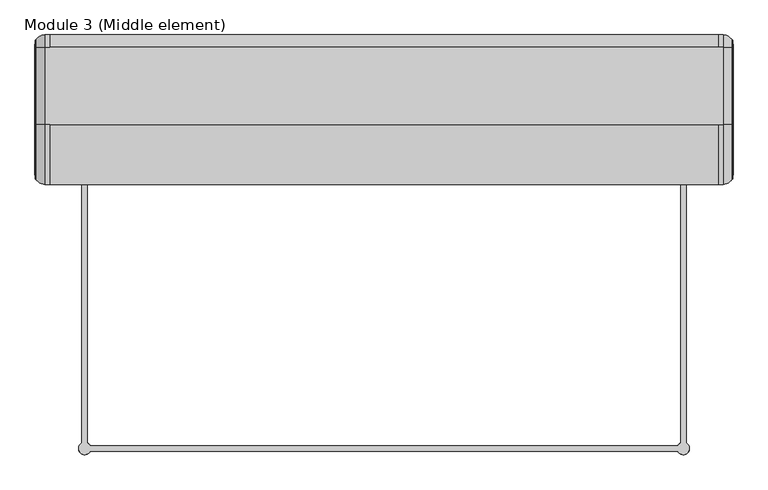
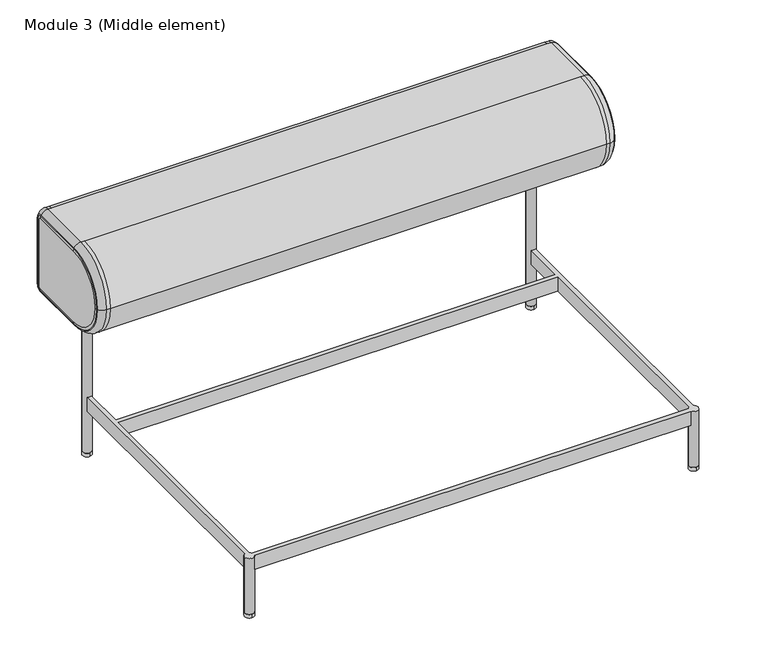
"""IFC4 building model written with IfcOpenShell, lengths in millimetres: furniture geometry, Module 3 (Middle element) : 1400х930х710мм."""

from ifc_helpers import new_model, si_unit, point, frame, frame_2d, origin, origin_with_axes, place, context, project, spatial, circle_curve, ellipse_curve, trimmed, segment, composite_curve, outline, extrude, source, transform, mapped, element, save
from ifc_brep_helpers import plane_surface, cylinder_surface, revolved_surface, advanced_brep


def module_3_middle_element_c7384a8f(model_context):
    return source(origin(), model_context, "Body", "SolidModel", [
        extrude(outline(composite_curve([segment(trimmed(circle_curve(frame_2d((1300.0, -70.0)), 12.5), [point((1300.0, -82.5))], [point((1300.0, -57.5))], False, "CARTESIAN"), True, "CONTINUOUS"), segment(trimmed(circle_curve(frame_2d((1300.0, -70.0)), 12.5), [point((1300.0, -57.5))], [point((1300.0, -82.5))], False, "CARTESIAN"), True, "CONTINUOUS")], self_intersect=False)), origin_with_axes(), (0.0, 0.0, 1.0), 10.0),
        extrude(outline(composite_curve([segment(trimmed(circle_curve(frame_2d((1300.0, -830.0)), 12.5), [point((1300.0, -842.5))], [point((1300.0, -817.5))], False, "CARTESIAN"), True, "CONTINUOUS"), segment(trimmed(circle_curve(frame_2d((1300.0, -830.0)), 12.5), [point((1300.0, -817.5))], [point((1300.0, -842.5))], False, "CARTESIAN"), True, "CONTINUOUS")], self_intersect=False)), origin_with_axes(), (0.0, 0.0, 1.0), 10.0),
        extrude(outline(composite_curve([segment(trimmed(circle_curve(frame_2d((100.0, -70.0)), 12.5), [point((100.0, -82.5))], [point((100.0, -57.5))], False, "CARTESIAN"), True, "CONTINUOUS"), segment(trimmed(circle_curve(frame_2d((100.0, -70.0)), 12.5), [point((100.0, -57.5))], [point((100.0, -82.5))], False, "CARTESIAN"), True, "CONTINUOUS")], self_intersect=False)), origin_with_axes(), (0.0, 0.0, 1.0), 10.0),
        extrude(outline(composite_curve([segment(trimmed(circle_curve(frame_2d((100.0, -830.0)), 12.5), [point((100.0, -842.5))], [point((100.0, -817.5))], False, "CARTESIAN"), True, "CONTINUOUS"), segment(trimmed(circle_curve(frame_2d((100.0, -830.0)), 12.5), [point((100.0, -817.5))], [point((100.0, -842.5))], False, "CARTESIAN"), True, "CONTINUOUS")], self_intersect=False)), origin_with_axes(), (0.0, 0.0, 1.0), 10.0),
        advanced_brep(
        [(106.0281998, -206.0281998, 130.0), (106.0281998, -206.0281998, 170.0), (106.0281998, -819.0496207, 170.0), (106.0281998, -819.0496207, 130.0), (94.0281998, -819.0187614, 130.0), (94.0281998, -819.0187614, 170.0), (94.0281998, -80.9812386, 170.0), (94.0281998, -80.9812386, 130.0), (110.9503793, -823.9718002, 170.0), (1289.0496207, -823.9718002, 170.0), (1289.0496207, -823.9718002, 130.0), (110.9503793, -823.9718002, 130.0), (110.9812386, -835.9718002, 130.0), (1289.0187614, -835.9718002, 130.0), (1289.0187614, -835.9718002, 170.0), (110.9812386, -835.9718002, 170.0), (1293.9718002, -206.0281998, 170.0), (1293.9718002, -206.0281998, 130.0), (1293.9718002, -819.0496207, 130.0), (1293.9718002, -819.0496207, 170.0), (1305.9718002, -819.0187614, 170.0), (1305.9718002, -819.0187614, 130.0), (1305.9718002, -80.9812386, 130.0), (1305.9718002, -80.9812386, 170.0), (112.5, -830.0, 130.0), (1287.5, -830.0, 130.0), (106.0281998, -80.9503793, 130.0), (106.0281998, -194.0281998, 130.0), (1293.9718002, -194.0281998, 130.0), (1293.9718002, -80.9503793, 130.0), (106.0281998, -194.0281998, 170.0), (1293.9718002, -194.0281998, 170.0), (87.5, -830.0, 170.0), (1312.5, -830.0, 170.0), (1293.9718002, -80.9503793, 170.0), (106.0281998, -80.9503793, 170.0), (87.5, -830.0, 10.0), (112.5, -830.0, 10.0), (1287.5, -830.0, 10.0), (1312.5, -830.0, 10.0), (87.5, -70.0, 460.0), (112.5, -70.0, 460.0), (1287.5, -70.0, 460.0), (1312.5, -70.0, 460.0), (87.5, -70.0, 10.0), (112.5, -70.0, 10.0), (1287.5, -70.0, 10.0), (1312.5, -70.0, 10.0)],
        [
            (0, 1),
            (1, 2),
            (2, 3),
            (3, 0),
            (4, 5),
            (5, 6),
            (6, 7),
            (7, 4),
            (8, 9),
            (9, 10),
            (10, 11),
            (11, 8),
            (12, 13),
            (13, 14),
            (14, 15),
            (15, 12),
            (16, 17),
            (17, 18),
            (18, 19),
            (19, 16),
            (20, 21),
            (21, 22),
            (22, 23),
            (23, 20),
            (0, 17),
            (16, 1),
            (12, 24, circle_curve(frame((100.0, -830.0, 130.0), z_axis=(0.0, 0.0, 1.0), x_axis=(1.0, 0.0, 0.0)), 12.5)),
            (24, 11, circle_curve(frame((100.0, -830.0, 130.0), z_axis=(0.0, 0.0, 1.0), x_axis=(1.0, 0.0, 0.0)), 12.5)),
            (10, 25, circle_curve(frame((1300.0, -830.0, 130.0), z_axis=(0.0, 0.0, 1.0), x_axis=(1.0, 0.0, 0.0)), 12.5)),
            (25, 13, circle_curve(frame((1300.0, -830.0, 130.0), z_axis=(0.0, 0.0, 1.0), x_axis=(1.0, 0.0, 0.0)), 12.5)),
            (3, 4, circle_curve(frame((100.0, -830.0, 130.0), z_axis=(0.0, 0.0, 1.0), x_axis=(1.0, 0.0, 0.0)), 12.5)),
            (7, 26, circle_curve(frame((100.0, -70.0, 130.0), z_axis=(0.0, 0.0, 1.0), x_axis=(1.0, 0.0, 0.0)), 12.5)),
            (26, 27),
            (27, 28),
            (28, 29),
            (29, 22, circle_curve(frame((1300.0, -70.0, 130.0), z_axis=(0.0, 0.0, 1.0), x_axis=(1.0, 0.0, 0.0)), 12.5)),
            (21, 18, circle_curve(frame((1300.0, -830.0, 130.0), z_axis=(0.0, 0.0, 1.0), x_axis=(1.0, 0.0, 0.0)), 12.5)),
            (27, 30),
            (30, 31),
            (31, 28),
            (32, 15, circle_curve(frame((100.0, -830.0, 170.0), z_axis=(0.0, 0.0, 1.0), x_axis=(1.0, 0.0, 0.0)), 12.5)),
            (14, 33, circle_curve(frame((1300.0, -830.0, 170.0), z_axis=(0.0, 0.0, 1.0), x_axis=(1.0, 0.0, 0.0)), 12.5)),
            (33, 20, circle_curve(frame((1300.0, -830.0, 170.0), z_axis=(0.0, 0.0, 1.0), x_axis=(1.0, 0.0, 0.0)), 12.5)),
            (23, 34, circle_curve(frame((1300.0, -70.0, 170.0), z_axis=(0.0, 0.0, -1.0), x_axis=(1.0, 0.0, 0.0)), 12.5)),
            (34, 31),
            (30, 35),
            (35, 6, circle_curve(frame((100.0, -70.0, 170.0), z_axis=(0.0, 0.0, -1.0), x_axis=(1.0, 0.0, 0.0)), 12.5)),
            (5, 32, circle_curve(frame((100.0, -830.0, 170.0), z_axis=(0.0, 0.0, 1.0), x_axis=(1.0, 0.0, 0.0)), 12.5)),
            (19, 9, circle_curve(frame((1300.0, -830.0, 170.0), z_axis=(0.0, 0.0, 1.0), x_axis=(1.0, 0.0, 0.0)), 12.5)),
            (8, 2, circle_curve(frame((100.0, -830.0, 170.0), z_axis=(0.0, 0.0, 1.0), x_axis=(1.0, 0.0, 0.0)), 12.5)),
            (36, 37, circle_curve(frame((100.0, -830.0, 10.0), z_axis=(0.0, 0.0, -1.0), x_axis=(1.0, 0.0, 0.0)), 12.5)),
            (37, 36, circle_curve(frame((100.0, -830.0, 10.0), z_axis=(0.0, 0.0, -1.0), x_axis=(1.0, 0.0, 0.0)), 12.5)),
            (38, 39, circle_curve(frame((1300.0, -830.0, 10.0), z_axis=(0.0, 0.0, -1.0), x_axis=(1.0, 0.0, 0.0)), 12.5)),
            (39, 38, circle_curve(frame((1300.0, -830.0, 10.0), z_axis=(0.0, 0.0, -1.0), x_axis=(1.0, 0.0, 0.0)), 12.5)),
            (37, 24),
            (32, 36),
            (39, 33),
            (25, 38),
            (40, 41, circle_curve(frame((100.0, -70.0, 460.0), z_axis=(0.0, 0.0, 1.0), x_axis=(1.0, 0.0, 0.0)), 12.5)),
            (41, 40, circle_curve(frame((100.0, -70.0, 460.0), z_axis=(0.0, 0.0, 1.0), x_axis=(1.0, 0.0, 0.0)), 12.5)),
            (42, 43, circle_curve(frame((1300.0, -70.0, 460.0), z_axis=(0.0, 0.0, 1.0), x_axis=(1.0, 0.0, 0.0)), 12.5)),
            (43, 42, circle_curve(frame((1300.0, -70.0, 460.0), z_axis=(0.0, 0.0, 1.0), x_axis=(1.0, 0.0, 0.0)), 12.5)),
            (44, 45, circle_curve(frame((100.0, -70.0, 10.0), z_axis=(0.0, 0.0, -1.0), x_axis=(1.0, 0.0, 0.0)), 12.5)),
            (45, 44, circle_curve(frame((100.0, -70.0, 10.0), z_axis=(0.0, 0.0, -1.0), x_axis=(1.0, 0.0, 0.0)), 12.5)),
            (46, 47, circle_curve(frame((1300.0, -70.0, 10.0), z_axis=(0.0, 0.0, -1.0), x_axis=(1.0, 0.0, 0.0)), 12.5)),
            (47, 46, circle_curve(frame((1300.0, -70.0, 10.0), z_axis=(0.0, 0.0, -1.0), x_axis=(1.0, 0.0, 0.0)), 12.5)),
            (40, 44),
            (45, 41),
            (35, 26),
            (34, 29),
            (42, 46),
            (47, 43),
        ],
        [
            plane_surface(frame((106.0281998, -206.0281998, 170.0), z_axis=(1.0, 0.0, 0.0), x_axis=(0.0, -1.0, 0.0))),
            plane_surface(frame((94.0281998, -194.0281998, 130.0), z_axis=(-1.0, 0.0, 0.0), x_axis=(0.0, -1.0, 0.0))),
            plane_surface(frame((106.0281998, -823.9718002, 170.0), z_axis=(0.0, 1.0, 0.0), x_axis=(1.0, 0.0, 0.0))),
            plane_surface(frame((94.0281998, -835.9718002, 130.0), z_axis=(0.0, -1.0, 0.0), x_axis=(1.0, 0.0, 0.0))),
            plane_surface(frame((1293.9718002, -823.9718002, 170.0), z_axis=(-1.0, 0.0, 0.0), x_axis=(0.0, 1.0, 0.0))),
            plane_surface(frame((1305.9718002, -835.9718002, 130.0), z_axis=(1.0, 0.0, 0.0), x_axis=(0.0, 1.0, 0.0))),
            plane_surface(frame((1293.9718002, -206.0281998, 170.0), z_axis=(0.0, -1.0, 0.0), x_axis=(-1.0, 0.0, 0.0))),
            plane_surface(frame((1293.9718002, -206.0281998, 130.0), z_axis=(0.0, 0.0, -1.0), x_axis=(-1.0, 0.0, 0.0))),
            plane_surface(frame((1305.9718002, -194.0281998, 130.0), z_axis=(0.0, 1.0, 0.0), x_axis=(-1.0, 0.0, 0.0))),
            plane_surface(frame((1305.9718002, -194.0281998, 170.0), z_axis=(0.0, 0.0, 1.0), x_axis=(-1.0, 0.0, 0.0))),
            plane_surface(frame((112.5, -830.0, 10.0), z_axis=(0.0, 0.0, -1.0), x_axis=(0.0, -1.0, 0.0))),
            cylinder_surface(frame((100.0, -830.0, 10.0), z_axis=(0.0, 0.0, 1.0), x_axis=(1.0, 0.0, 0.0)), 12.5),
            cylinder_surface(frame((1300.0, -830.0, 0.0), z_axis=(0.0, 0.0, 1.0), x_axis=(1.0, 0.0, 0.0)), 12.5),
            plane_surface(frame((112.5, -70.0, 460.0), z_axis=(0.0, 0.0, 1.0), x_axis=(0.0, 1.0, 0.0))),
            plane_surface(frame((112.5, -70.0, 10.0), z_axis=(0.0, 0.0, -1.0), x_axis=(0.0, -1.0, 0.0))),
            cylinder_surface(frame((100.0, -70.0, 10.0), z_axis=(0.0, 0.0, 1.0), x_axis=(1.0, 0.0, 0.0)), 12.5),
            plane_surface(frame((106.0281998, -70.0, 170.0), z_axis=(1.0, 0.0, 0.0), x_axis=(0.0, -1.0, 0.0))),
            plane_surface(frame((1293.9718002, -70.0, 130.0), z_axis=(-1.0, 0.0, 0.0), x_axis=(0.0, -1.0, 0.0))),
            cylinder_surface(frame((1300.0, -70.0, 0.0), z_axis=(0.0, 0.0, 1.0), x_axis=(1.0, 0.0, 0.0)), 12.5),
        ],
        [
            (0, [[1, 2, 3, 4]]),
            (1, [[5, 6, 7, 8]]),
            (2, [[9, 10, 11, 12]]),
            (3, [[13, 14, 15, 16]]),
            (4, [[17, 18, 19, 20]]),
            (5, [[21, 22, 23, 24]]),
            (6, [[-1, 25, -17, 26]]),
            (7, [[-13, 27, 28, -11, 29, 30]]),
            (7, [[-25, -4, 31, -8, 32, 33, 34, 35, 36, -22, 37, -18]]),
            (8, [[38, 39, 40, -34]]),
            (9, [[41, -15, 42, 43, -24, 44, 45, -39, 46, 47, -6, 48], [-26, -20, 49, -9, 50, -2]]),
            (10, [[51, 52]]),
            (10, [[53, 54]]),
            (11, [[-52, 55, -27, -16, -41, 56]]),
            (11, [[-51, -56, -48, -5, -31, -3, -50, -12, -28, -55]]),
            (12, [[-54, 57, -42, -14, -30, 58]]),
            (12, [[-53, -58, -29, -10, -49, -19, -37, -21, -43, -57]]),
            (13, [[59, 60]]),
            (13, [[61, 62]]),
            (14, [[63, 64]]),
            (14, [[65, 66]]),
            (15, [[-59, 67, -64, 68], [69, -32, -7, -47]]),
            (15, [[-60, -68, -63, -67]]),
            (16, [[-46, -38, -33, -69]]),
            (17, [[-35, -40, -45, 70]]),
            (18, [[-61, 71, -66, 72], [-23, -36, -70, -44]]),
            (18, [[-62, -72, -65, -71]]),
        ],
    ),
        advanced_brep(
        [(0.0, -280.0, 580.0), (0.0, -180.0, 680.0), (0.0, -25.0, 680.0), (0.0, -20.0, 675.0), (0.0, -20.0, 485.0), (0.0, -25.0, 480.0), (0.0, -180.0, 480.0), (20.0, -300.0, 580.0), (20.0, -180.0, 700.0), (2.1372821, -180.0, 688.9957385), (2.1372821, -288.9957385, 580.0), (30.0, -300.0, 580.0), (30.0, -180.0, 700.0), (2.1372821, -180.0, 471.0042615), (20.0, -180.0, 460.0), (30.0, -180.0, 460.0), (2.1372821, -25.0, 471.0042615), (20.0, -25.0, 460.0), (30.0, -25.0, 460.0), (1370.0, -25.0, 460.0), (1380.0, -25.0, 460.0), (1380.0, -180.0, 460.0), (1370.0, -180.0, 460.0), (2.1372821, -11.0042615, 485.0), (20.0, 0.0, 485.0), (30.0, 0.0, 485.0), (2.1372821, -11.0042615, 675.0), (20.0, 0.0, 675.0), (30.0, 0.0, 675.0), (1370.0, 0.0, 675.0), (1380.0, 0.0, 675.0), (1380.0, 0.0, 485.0), (1370.0, 0.0, 485.0), (2.1372821, -25.0, 688.9957385), (20.0, -25.0, 700.0), (30.0, -25.0, 700.0), (1370.0, -180.0, 700.0), (1380.0, -180.0, 700.0), (1380.0, -25.0, 700.0), (1370.0, -25.0, 700.0), (1370.0, -300.0, 580.0), (1400.0, -180.0, 680.0), (1400.0, -280.0, 580.0), (1400.0, -180.0, 480.0), (1400.0, -25.0, 480.0), (1400.0, -20.0, 485.0), (1400.0, -20.0, 675.0), (1400.0, -25.0, 680.0), (1398.319335, -180.0, 688.0250834), (1398.319335, -288.0250834, 580.0), (1380.0, -300.0, 580.0), (1398.319335, -180.0, 471.9749166), (1398.319335, -25.0, 471.9749166), (1398.319335, -11.9749166, 485.0), (1398.319335, -11.9749166, 675.0), (1398.319335, -25.0, 688.0250834), (1397.9066419, -288.9079837, 580.0), (1397.9066419, -180.0, 688.9079837), (1397.9066419, -180.0, 471.0920163), (1397.9066419, -25.0, 471.0920163), (1397.9066419, -11.0920163, 485.0), (1397.9066419, -11.0920163, 675.0), (1397.9066419, -25.0, 688.9079837), (1.7163728, -288.1061073, 580.0), (1.7163728, -180.0, 688.1061073), (1.7163728, -180.0, 471.8938927), (1.7163728, -25.0, 471.8938927), (1.7163728, -11.8938927, 485.0), (1.7163728, -11.8938927, 675.0), (1.7163728, -25.0, 688.1061073)],
        [
            (0, 1, circle_curve(frame((0.0, -180.0, 580.0), z_axis=(-1.0, 0.0, 0.0), x_axis=(0.0, 0.0, 1.0)), 100.0)),
            (1, 2),
            (2, 3, circle_curve(frame((0.0, -25.0, 675.0), z_axis=(-1.0, 0.0, 0.0), x_axis=(0.0, 1.0, 0.0)), 5.0)),
            (3, 4),
            (4, 5, circle_curve(frame((0.0, -25.0, 485.0), z_axis=(-1.0, 0.0, 0.0), x_axis=(0.0, 0.0, -1.0)), 5.0)),
            (5, 6),
            (6, 0, circle_curve(frame((0.0, -180.0, 580.0), z_axis=(-1.0, 0.0, 0.0), x_axis=(0.0, -1.0, 0.0)), 100.0)),
            (7, 8, circle_curve(frame((20.0, -180.0, 580.0), z_axis=(-1.0, 0.0, 0.0), x_axis=(0.0, 0.0, 1.0)), 120.0)),
            (8, 9, circle_curve(frame((20.0, -180.0, 680.0), z_axis=(0.0, -1.0, 0.0), x_axis=(0.0, 0.0, -1.0)), 20.0)),
            (9, 10, circle_curve(frame((2.1372821, -180.0, 580.0), z_axis=(1.0, 0.0, 0.0), x_axis=(0.0, 0.0, 1.0)), 108.9957385)),
            (10, 7, circle_curve(frame((20.0, -280.0, 580.0), z_axis=(0.0, 0.0, 1.0), x_axis=(0.0, 1.0, 0.0)), 20.0)),
            (7, 11),
            (11, 12, circle_curve(frame((30.0, -180.0, 580.0), z_axis=(-1.0, 0.0, 0.0), x_axis=(0.0, 0.0, 1.0)), 120.0)),
            (12, 8),
            (10, 13, circle_curve(frame((2.1372821, -180.0, 580.0), z_axis=(1.0, 0.0, 0.0), x_axis=(0.0, -1.0, 0.0)), 108.9957385)),
            (13, 14, circle_curve(frame((20.0, -180.0, 480.0), z_axis=(0.0, -1.0, 0.0), x_axis=(0.0, 0.0, 1.0)), 20.0)),
            (14, 7, circle_curve(frame((20.0, -180.0, 580.0), z_axis=(-1.0, 0.0, 0.0), x_axis=(0.0, -1.0, 0.0)), 120.0)),
            (14, 15),
            (15, 11, circle_curve(frame((30.0, -180.0, 580.0), z_axis=(-1.0, 0.0, 0.0), x_axis=(0.0, -1.0, 0.0)), 120.0)),
            (13, 16),
            (16, 17, circle_curve(frame((20.0, -25.0, 480.0), z_axis=(0.0, -1.0, 0.0), x_axis=(0.0, 0.0, 1.0)), 20.0)),
            (17, 14),
            (17, 18),
            (18, 19),
            (19, 20),
            (20, 21),
            (21, 22),
            (22, 15),
            (16, 23, circle_curve(frame((2.1372821, -25.0, 485.0), z_axis=(1.0, 0.0, 0.0), x_axis=(0.0, 0.0, -1.0)), 13.9957385)),
            (23, 24, circle_curve(frame((20.0, -20.0, 485.0), z_axis=(0.0, 0.0, -1.0), x_axis=(0.0, -1.0, 0.0)), 20.0)),
            (24, 17, circle_curve(frame((20.0, -25.0, 485.0), z_axis=(-1.0, 0.0, 0.0), x_axis=(0.0, 0.0, -1.0)), 25.0)),
            (24, 25),
            (25, 18, circle_curve(frame((30.0, -25.0, 485.0), z_axis=(-1.0, 0.0, 0.0), x_axis=(0.0, 0.0, -1.0)), 25.0)),
            (23, 26),
            (26, 27, circle_curve(frame((20.0, -20.0, 675.0), z_axis=(0.0, 0.0, -1.0), x_axis=(0.0, -1.0, 0.0)), 20.0)),
            (27, 24),
            (27, 28),
            (28, 29),
            (29, 30),
            (30, 31),
            (31, 32),
            (32, 25),
            (26, 33, circle_curve(frame((2.1372821, -25.0, 675.0), z_axis=(1.0, 0.0, 0.0), x_axis=(0.0, 1.0, 0.0)), 13.9957385)),
            (33, 34, circle_curve(frame((20.0, -25.0, 680.0), z_axis=(0.0, 1.0, 0.0), x_axis=(0.0, 0.0, -1.0)), 20.0)),
            (34, 27, circle_curve(frame((20.0, -25.0, 675.0), z_axis=(-1.0, 0.0, 0.0), x_axis=(0.0, 1.0, 0.0)), 25.0)),
            (34, 35),
            (35, 28, circle_curve(frame((30.0, -25.0, 675.0), z_axis=(-1.0, 0.0, 0.0), x_axis=(0.0, 1.0, 0.0)), 25.0)),
            (8, 34),
            (33, 9),
            (12, 36),
            (36, 37),
            (37, 38),
            (38, 39),
            (39, 35),
            (39, 29, circle_curve(frame((1370.0, -25.0, 675.0), z_axis=(-1.0, 0.0, 0.0), x_axis=(0.0, 1.0, 0.0)), 25.0)),
            (11, 40),
            (40, 36, circle_curve(frame((1370.0, -180.0, 580.0), z_axis=(-1.0, 0.0, 0.0), x_axis=(0.0, 1.0, 0.0)), 120.0)),
            (22, 40, circle_curve(frame((1370.0, -180.0, 580.0), z_axis=(-1.0, 0.0, 0.0), x_axis=(0.0, 1.0, 0.0)), 120.0)),
            (32, 19, circle_curve(frame((1370.0, -25.0, 485.0), z_axis=(-1.0, 0.0, 0.0), x_axis=(0.0, 1.0, 0.0)), 25.0)),
            (41, 42, circle_curve(frame((1400.0, -180.0, 580.0), z_axis=(1.0, 0.0, 0.0), x_axis=(0.0, 0.0, 1.0)), 100.0)),
            (42, 43, circle_curve(frame((1400.0, -180.0, 580.0), z_axis=(1.0, 0.0, 0.0), x_axis=(0.0, -1.0, 0.0)), 100.0)),
            (43, 44),
            (44, 45, circle_curve(frame((1400.0, -25.0, 485.0), z_axis=(1.0, 0.0, 0.0), x_axis=(0.0, 0.0, -1.0)), 5.0)),
            (45, 46),
            (46, 47, circle_curve(frame((1400.0, -25.0, 675.0), z_axis=(1.0, 0.0, 0.0), x_axis=(0.0, 1.0, 0.0)), 5.0)),
            (47, 41),
            (41, 48, circle_curve(frame((1380.0, -180.0, 680.0), z_axis=(0.0, -1.0, 0.0), x_axis=(0.0, 0.0, -1.0)), 20.0)),
            (48, 49, circle_curve(frame((1398.319335, -180.0, 580.0), z_axis=(1.0, 0.0, 0.0), x_axis=(0.0, 0.0, 1.0)), 108.0250834)),
            (49, 42, circle_curve(frame((1380.0, -280.0, 580.0), z_axis=(0.0, 0.0, 1.0), x_axis=(0.0, 1.0, 0.0)), 20.0)),
            (50, 37, circle_curve(frame((1380.0, -180.0, 580.0), z_axis=(-1.0, 0.0, 0.0), x_axis=(0.0, 0.0, 1.0)), 120.0)),
            (40, 50),
            (49, 51, circle_curve(frame((1398.319335, -180.0, 580.0), z_axis=(1.0, 0.0, 0.0), x_axis=(0.0, -1.0, 0.0)), 108.0250834)),
            (51, 43, circle_curve(frame((1380.0, -180.0, 480.0), z_axis=(0.0, -1.0, 0.0), x_axis=(0.0, 0.0, 1.0)), 20.0)),
            (21, 50, circle_curve(frame((1380.0, -180.0, 580.0), z_axis=(-1.0, 0.0, 0.0), x_axis=(0.0, -1.0, 0.0)), 120.0)),
            (51, 52),
            (52, 44, circle_curve(frame((1380.0, -25.0, 480.0), z_axis=(0.0, -1.0, 0.0), x_axis=(0.0, 0.0, 1.0)), 20.0)),
            (52, 53, circle_curve(frame((1398.319335, -25.0, 485.0), z_axis=(1.0, 0.0, 0.0), x_axis=(0.0, 0.0, -1.0)), 13.0250834)),
            (53, 45, circle_curve(frame((1380.0, -20.0, 485.0), z_axis=(0.0, 0.0, -1.0), x_axis=(0.0, -1.0, 0.0)), 20.0)),
            (31, 20, circle_curve(frame((1380.0, -25.0, 485.0), z_axis=(-1.0, 0.0, 0.0), x_axis=(0.0, 0.0, -1.0)), 25.0)),
            (53, 54),
            (54, 46, circle_curve(frame((1380.0, -20.0, 675.0), z_axis=(0.0, 0.0, -1.0), x_axis=(0.0, -1.0, 0.0)), 20.0)),
            (54, 55, circle_curve(frame((1398.319335, -25.0, 675.0), z_axis=(1.0, 0.0, 0.0), x_axis=(0.0, 1.0, 0.0)), 13.0250834)),
            (55, 47, circle_curve(frame((1380.0, -25.0, 680.0), z_axis=(0.0, 1.0, 0.0), x_axis=(0.0, 0.0, -1.0)), 20.0)),
            (38, 30, circle_curve(frame((1380.0, -25.0, 675.0), z_axis=(-1.0, 0.0, 0.0), x_axis=(0.0, 1.0, 0.0)), 25.0)),
            (55, 48),
            (50, 56, circle_curve(frame((1380.0, -280.0, 580.0), z_axis=(0.0, 0.0, 1.0), x_axis=(0.0, 1.0, 0.0)), 20.0)),
            (56, 57, circle_curve(frame((1397.9066419, -180.0, 580.0), z_axis=(-1.0, 0.0, 0.0), x_axis=(0.0, 0.0, 1.0)), 108.9079837)),
            (57, 37, circle_curve(frame((1380.0, -180.0, 680.0), z_axis=(0.0, -1.0, 0.0), x_axis=(0.0, 0.0, -1.0)), 20.0)),
            (48, 57, circle_curve(frame((1398.6877598, -180.0, 688.7351983), z_axis=(0.0, -1.0, 0.0), x_axis=(0.0, 0.0, -1.0)), 0.8)),
            (56, 49, circle_curve(frame((1398.6877598, -288.7351983, 580.0), z_axis=(0.0, 0.0, 1.0), x_axis=(0.0, 1.0, 0.0)), 0.8)),
            (21, 58, circle_curve(frame((1380.0, -180.0, 480.0), z_axis=(0.0, -1.0, 0.0), x_axis=(0.0, 0.0, 1.0)), 20.0)),
            (58, 56, circle_curve(frame((1397.9066419, -180.0, 580.0), z_axis=(-1.0, 0.0, 0.0), x_axis=(0.0, -1.0, 0.0)), 108.9079837)),
            (58, 51, circle_curve(frame((1398.6877598, -180.0, 471.2648017), z_axis=(0.0, -1.0, 0.0), x_axis=(0.0, 0.0, 1.0)), 0.8)),
            (20, 59, circle_curve(frame((1380.0, -25.0, 480.0), z_axis=(0.0, -1.0, 0.0), x_axis=(0.0, 0.0, 1.0)), 20.0)),
            (59, 58),
            (59, 52, circle_curve(frame((1398.6877598, -25.0, 471.2648017), z_axis=(0.0, -1.0, 0.0), x_axis=(0.0, 0.0, 1.0)), 0.8)),
            (31, 60, circle_curve(frame((1380.0, -20.0, 485.0), z_axis=(0.0, 0.0, -1.0), x_axis=(0.0, -1.0, 0.0)), 20.0)),
            (60, 59, circle_curve(frame((1397.9066419, -25.0, 485.0), z_axis=(-1.0, 0.0, 0.0), x_axis=(0.0, 0.0, -1.0)), 13.9079837)),
            (60, 53, circle_curve(frame((1398.6877598, -11.2648017, 485.0), z_axis=(0.0, 0.0, -1.0), x_axis=(0.0, -1.0, 0.0)), 0.8)),
            (30, 61, circle_curve(frame((1380.0, -20.0, 675.0), z_axis=(0.0, 0.0, -1.0), x_axis=(0.0, -1.0, 0.0)), 20.0)),
            (61, 60),
            (61, 54, circle_curve(frame((1398.6877598, -11.2648017, 675.0), z_axis=(0.0, 0.0, -1.0), x_axis=(0.0, -1.0, 0.0)), 0.8)),
            (38, 62, circle_curve(frame((1380.0, -25.0, 680.0), z_axis=(0.0, 1.0, 0.0), x_axis=(0.0, 0.0, -1.0)), 20.0)),
            (62, 61, circle_curve(frame((1397.9066419, -25.0, 675.0), z_axis=(-1.0, 0.0, 0.0), x_axis=(0.0, 1.0, 0.0)), 13.9079837)),
            (62, 55, circle_curve(frame((1398.6877598, -25.0, 688.7351983), z_axis=(0.0, 1.0, 0.0), x_axis=(0.0, 0.0, -1.0)), 0.8)),
            (57, 62),
            (63, 64, circle_curve(frame((1.7163728, -180.0, 580.0), z_axis=(-1.0, 0.0, 0.0), x_axis=(0.0, 0.0, 1.0)), 108.1061073)),
            (64, 1, circle_curve(frame((20.0, -180.0, 680.0), z_axis=(0.0, -1.0, 0.0), x_axis=(0.0, 0.0, -1.0)), 20.0)),
            (0, 63, circle_curve(frame((20.0, -280.0, 580.0), z_axis=(0.0, 0.0, 1.0), x_axis=(0.0, 1.0, 0.0)), 20.0)),
            (9, 64, circle_curve(frame((1.3566705, -180.0, 688.8206801), z_axis=(0.0, -1.0, 0.0), x_axis=(0.0, 0.0, -1.0)), 0.8)),
            (63, 10, circle_curve(frame((1.3566705, -288.8206801, 580.0), z_axis=(0.0, 0.0, 1.0), x_axis=(0.0, 1.0, 0.0)), 0.8)),
            (6, 65, circle_curve(frame((20.0, -180.0, 480.0), z_axis=(0.0, -1.0, 0.0), x_axis=(0.0, 0.0, 1.0)), 20.0)),
            (65, 63, circle_curve(frame((1.7163728, -180.0, 580.0), z_axis=(-1.0, 0.0, 0.0), x_axis=(0.0, -1.0, 0.0)), 108.1061073)),
            (65, 13, circle_curve(frame((1.3566705, -180.0, 471.1793199), z_axis=(0.0, -1.0, 0.0), x_axis=(0.0, 0.0, 1.0)), 0.8)),
            (5, 66, circle_curve(frame((20.0, -25.0, 480.0), z_axis=(0.0, -1.0, 0.0), x_axis=(0.0, 0.0, 1.0)), 20.0)),
            (66, 65),
            (66, 16, circle_curve(frame((1.3566705, -25.0, 471.1793199), z_axis=(0.0, -1.0, 0.0), x_axis=(0.0, 0.0, 1.0)), 0.8)),
            (4, 67, circle_curve(frame((20.0, -20.0, 485.0), z_axis=(0.0, 0.0, -1.0), x_axis=(0.0, -1.0, 0.0)), 20.0)),
            (67, 66, circle_curve(frame((1.7163728, -25.0, 485.0), z_axis=(-1.0, 0.0, 0.0), x_axis=(0.0, 0.0, -1.0)), 13.1061073)),
            (67, 23, circle_curve(frame((1.3566705, -11.1793199, 485.0), z_axis=(0.0, 0.0, -1.0), x_axis=(0.0, -1.0, 0.0)), 0.8)),
            (3, 68, circle_curve(frame((20.0, -20.0, 675.0), z_axis=(0.0, 0.0, -1.0), x_axis=(0.0, -1.0, 0.0)), 20.0)),
            (68, 67),
            (68, 26, circle_curve(frame((1.3566705, -11.1793199, 675.0), z_axis=(0.0, 0.0, -1.0), x_axis=(0.0, -1.0, 0.0)), 0.8)),
            (2, 69, circle_curve(frame((20.0, -25.0, 680.0), z_axis=(0.0, 1.0, 0.0), x_axis=(0.0, 0.0, -1.0)), 20.0)),
            (69, 68, circle_curve(frame((1.7163728, -25.0, 675.0), z_axis=(-1.0, 0.0, 0.0), x_axis=(0.0, 1.0, 0.0)), 13.1061073)),
            (69, 33, circle_curve(frame((1.3566705, -25.0, 688.8206801), z_axis=(0.0, 1.0, 0.0), x_axis=(0.0, 0.0, -1.0)), 0.8)),
            (64, 69),
        ],
        [
            plane_surface(frame((0.0, -180.0, 680.0), z_axis=(-1.0, 0.0, 0.0), x_axis=(0.0, 1.0, 0.0))),
            revolved_surface(trimmed(ellipse_curve(frame((20.0, -180.0, 680.0), z_axis=(0.0, 1.0, 0.0), x_axis=(0.0, 0.0, -1.0)), 20.0, 20.0), [point((2.1372821, -180.0, 688.9957385))], [point((20.0, -180.0, 700.0))], True, "CARTESIAN"), (30.0, -180.0, 580.0), (1.0, 0.0, 0.0)),
            cylinder_surface(frame((30.0, -180.0, 580.0), z_axis=(1.0, 0.0, 0.0), x_axis=(0.0, 0.0, 1.0)), 120.0),
            revolved_surface(trimmed(ellipse_curve(frame((20.0, -280.0, 580.0), z_axis=(0.0, 0.0, 1.0), x_axis=(0.0, 1.0, 0.0)), 20.0, 20.0), [point((2.1372821, -288.9957385, 580.0))], [point((20.0, -300.0, 580.0))], True, "CARTESIAN"), (30.0, -180.0, 580.0), (1.0, 0.0, 0.0)),
            cylinder_surface(frame((30.0, -180.0, 580.0), z_axis=(1.0, 0.0, 0.0), x_axis=(0.0, -1.0, 0.0)), 120.0),
            cylinder_surface(frame((20.0, -180.0, 480.0), z_axis=(0.0, -1.0, 0.0), x_axis=(0.0, 0.0, 1.0)), 20.0),
            plane_surface(frame((20.0, -180.0, 460.0), z_axis=(0.0, 0.0, -1.0), x_axis=(0.0, 1.0, 0.0))),
            revolved_surface(trimmed(ellipse_curve(frame((20.0, -25.0, 480.0), z_axis=(0.0, -1.0, 0.0), x_axis=(0.0, 0.0, 1.0)), 20.0, 20.0), [point((2.1372821, -25.0, 471.0042615))], [point((20.0, -25.0, 460.0))], True, "CARTESIAN"), (30.0, -25.0, 485.0), (1.0, 0.0, 0.0)),
            cylinder_surface(frame((30.0, -25.0, 485.0), z_axis=(1.0, 0.0, 0.0), x_axis=(0.0, 0.0, -1.0)), 25.0),
            cylinder_surface(frame((20.0, -20.0, 485.0), z_axis=(0.0, 0.0, -1.0), x_axis=(0.0, -1.0, 0.0)), 20.0),
            plane_surface(frame((20.0, 0.0, 485.0), z_axis=(0.0, 1.0, 0.0), x_axis=(0.0, 0.0, 1.0))),
            revolved_surface(trimmed(ellipse_curve(frame((20.0, -20.0, 675.0), z_axis=(0.0, 0.0, -1.0), x_axis=(0.0, -1.0, 0.0)), 20.0, 20.0), [point((2.1372821, -11.0042615, 675.0))], [point((20.0, 0.0, 675.0))], True, "CARTESIAN"), (30.0, -25.0, 675.0), (1.0, 0.0, 0.0)),
            cylinder_surface(frame((30.0, -25.0, 675.0), z_axis=(1.0, 0.0, 0.0), x_axis=(0.0, 1.0, 0.0)), 25.0),
            cylinder_surface(frame((20.0, -25.0, 680.0), z_axis=(0.0, 1.0, 0.0), x_axis=(0.0, 0.0, -1.0)), 20.0),
            plane_surface(frame((20.0, -25.0, 700.0), z_axis=(0.0, 0.0, 1.0), x_axis=(0.0, -1.0, 0.0))),
            cylinder_surface(frame((30.0, -180.0, 580.0), z_axis=(1.0, 0.0, 0.0), x_axis=(0.0, 1.0, 0.0)), 120.0),
            cylinder_surface(frame((30.0, -25.0, 485.0), z_axis=(1.0, 0.0, 0.0), x_axis=(0.0, 1.0, 0.0)), 25.0),
            plane_surface(frame((1400.0, -180.0, 680.0), z_axis=(1.0, 0.0, 0.0), x_axis=(0.0, -1.0, 0.0))),
            revolved_surface(trimmed(ellipse_curve(frame((1380.0, -180.0, 680.0), z_axis=(0.0, 1.0, 0.0), x_axis=(0.0, 0.0, -1.0)), 20.0, 20.0), [point((1398.319335, -180.0, 688.0250834))], [point((1400.0, -180.0, 680.0))], True, "CARTESIAN"), (1370.0, -180.0, 580.0), (1.0, 0.0, 0.0)),
            cylinder_surface(frame((1370.0, -180.0, 580.0), z_axis=(1.0, 0.0, 0.0), x_axis=(0.0, 0.0, 1.0)), 120.0),
            revolved_surface(trimmed(ellipse_curve(frame((1380.0, -280.0, 580.0), z_axis=(0.0, 0.0, 1.0), x_axis=(0.0, 1.0, 0.0)), 20.0, 20.0), [point((1398.319335, -288.0250834, 580.0))], [point((1400.0, -280.0, 580.0))], True, "CARTESIAN"), (1370.0, -180.0, 580.0), (1.0, 0.0, 0.0)),
            cylinder_surface(frame((1370.0, -180.0, 580.0), z_axis=(1.0, 0.0, 0.0), x_axis=(0.0, -1.0, 0.0)), 120.0),
            cylinder_surface(frame((1380.0, -180.0, 480.0), z_axis=(0.0, -1.0, 0.0), x_axis=(0.0, 0.0, 1.0)), 20.0),
            revolved_surface(trimmed(ellipse_curve(frame((1380.0, -25.0, 480.0), z_axis=(0.0, -1.0, 0.0), x_axis=(0.0, 0.0, 1.0)), 20.0, 20.0), [point((1398.319335, -25.0, 471.9749166))], [point((1400.0, -25.0, 480.0))], True, "CARTESIAN"), (1370.0, -25.0, 485.0), (1.0, 0.0, 0.0)),
            cylinder_surface(frame((1370.0, -25.0, 485.0), z_axis=(1.0, 0.0, 0.0), x_axis=(0.0, 0.0, -1.0)), 25.0),
            cylinder_surface(frame((1380.0, -20.0, 485.0), z_axis=(0.0, 0.0, -1.0), x_axis=(0.0, -1.0, 0.0)), 20.0),
            revolved_surface(trimmed(ellipse_curve(frame((1380.0, -20.0, 675.0), z_axis=(0.0, 0.0, -1.0), x_axis=(0.0, -1.0, 0.0)), 20.0, 20.0), [point((1398.319335, -11.9749166, 675.0))], [point((1400.0, -20.0, 675.0))], True, "CARTESIAN"), (1370.0, -25.0, 675.0), (1.0, 0.0, 0.0)),
            cylinder_surface(frame((1370.0, -25.0, 675.0), z_axis=(1.0, 0.0, 0.0), x_axis=(0.0, 1.0, 0.0)), 25.0),
            cylinder_surface(frame((1380.0, -25.0, 680.0), z_axis=(0.0, 1.0, 0.0), x_axis=(0.0, 0.0, -1.0)), 20.0),
            revolved_surface(trimmed(ellipse_curve(frame((1380.0, -180.0, 680.0), z_axis=(0.0, 1.0, 0.0), x_axis=(0.0, 0.0, -1.0)), 20.0, 20.0), [point((1380.0, -180.0, 700.0))], [point((1397.9066419, -180.0, 688.9079837))], True, "CARTESIAN"), (1370.0, -180.0, 580.0), (1.0, 0.0, 0.0)),
            revolved_surface(trimmed(ellipse_curve(frame((1398.6877598, -180.0, 688.7351983), z_axis=(0.0, 1.0, 0.0), x_axis=(0.0, 0.0, -1.0)), 0.8, 0.8), [point((1397.9066419, -180.0, 688.9079837))], [point((1398.319335, -180.0, 688.0250834))], True, "CARTESIAN"), (1370.0, -180.0, 580.0), (1.0, 0.0, 0.0)),
            revolved_surface(trimmed(ellipse_curve(frame((1380.0, -280.0, 580.0), z_axis=(0.0, 0.0, 1.0), x_axis=(0.0, 1.0, 0.0)), 20.0, 20.0), [point((1380.0, -300.0, 580.0))], [point((1397.9066419, -288.9079837, 580.0))], True, "CARTESIAN"), (1370.0, -180.0, 580.0), (1.0, 0.0, 0.0)),
            revolved_surface(trimmed(ellipse_curve(frame((1398.6877598, -288.7351983, 580.0), z_axis=(0.0, 0.0, 1.0), x_axis=(0.0, 1.0, 0.0)), 0.8, 0.8), [point((1397.9066419, -288.9079837, 580.0))], [point((1398.319335, -288.0250834, 580.0))], True, "CARTESIAN"), (1370.0, -180.0, 580.0), (1.0, 0.0, 0.0)),
            cylinder_surface(frame((1398.6877598, -180.0, 471.2648017), z_axis=(0.0, -1.0, 0.0), x_axis=(0.0, 0.0, 1.0)), 0.8),
            revolved_surface(trimmed(ellipse_curve(frame((1380.0, -25.0, 480.0), z_axis=(0.0, -1.0, 0.0), x_axis=(0.0, 0.0, 1.0)), 20.0, 20.0), [point((1380.0, -25.0, 460.0))], [point((1397.9066419, -25.0, 471.0920163))], True, "CARTESIAN"), (1370.0, -25.0, 485.0), (1.0, 0.0, 0.0)),
            revolved_surface(trimmed(ellipse_curve(frame((1398.6877598, -25.0, 471.2648017), z_axis=(0.0, -1.0, 0.0), x_axis=(0.0, 0.0, 1.0)), 0.8, 0.8), [point((1397.9066419, -25.0, 471.0920163))], [point((1398.319335, -25.0, 471.9749166))], True, "CARTESIAN"), (1370.0, -25.0, 485.0), (1.0, 0.0, 0.0)),
            cylinder_surface(frame((1398.6877598, -11.2648017, 485.0), z_axis=(0.0, 0.0, -1.0), x_axis=(0.0, -1.0, 0.0)), 0.8),
            revolved_surface(trimmed(ellipse_curve(frame((1380.0, -20.0, 675.0), z_axis=(0.0, 0.0, -1.0), x_axis=(0.0, -1.0, 0.0)), 20.0, 20.0), [point((1380.0, 0.0, 675.0))], [point((1397.9066419, -11.0920163, 675.0))], True, "CARTESIAN"), (1370.0, -25.0, 675.0), (1.0, 0.0, 0.0)),
            revolved_surface(trimmed(ellipse_curve(frame((1398.6877598, -11.2648017, 675.0), z_axis=(0.0, 0.0, -1.0), x_axis=(0.0, -1.0, 0.0)), 0.8, 0.8), [point((1397.9066419, -11.0920163, 675.0))], [point((1398.319335, -11.9749166, 675.0))], True, "CARTESIAN"), (1370.0, -25.0, 675.0), (1.0, 0.0, 0.0)),
            cylinder_surface(frame((1398.6877598, -25.0, 688.7351983), z_axis=(0.0, 1.0, 0.0), x_axis=(0.0, 0.0, -1.0)), 0.8),
            revolved_surface(trimmed(ellipse_curve(frame((20.0, -180.0, 680.0), z_axis=(0.0, 1.0, 0.0), x_axis=(0.0, 0.0, -1.0)), 20.0, 20.0), [point((0.0, -180.0, 680.0))], [point((1.7163728, -180.0, 688.1061073))], True, "CARTESIAN"), (30.0, -180.0, 580.0), (1.0, 0.0, 0.0)),
            revolved_surface(trimmed(ellipse_curve(frame((1.3566705, -180.0, 688.8206801), z_axis=(0.0, 1.0, 0.0), x_axis=(0.0, 0.0, -1.0)), 0.8, 0.8), [point((1.7163728, -180.0, 688.1061073))], [point((2.1372821, -180.0, 688.9957385))], True, "CARTESIAN"), (30.0, -180.0, 580.0), (1.0, 0.0, 0.0)),
            revolved_surface(trimmed(ellipse_curve(frame((20.0, -280.0, 580.0), z_axis=(0.0, 0.0, 1.0), x_axis=(0.0, 1.0, 0.0)), 20.0, 20.0), [point((0.0, -280.0, 580.0))], [point((1.7163728, -288.1061073, 580.0))], True, "CARTESIAN"), (30.0, -180.0, 580.0), (1.0, 0.0, 0.0)),
            revolved_surface(trimmed(ellipse_curve(frame((1.3566705, -288.8206801, 580.0), z_axis=(0.0, 0.0, 1.0), x_axis=(0.0, 1.0, 0.0)), 0.8, 0.8), [point((1.7163728, -288.1061073, 580.0))], [point((2.1372821, -288.9957385, 580.0))], True, "CARTESIAN"), (30.0, -180.0, 580.0), (1.0, 0.0, 0.0)),
            cylinder_surface(frame((1.3566705, -180.0, 471.1793199), z_axis=(0.0, -1.0, 0.0), x_axis=(0.0, 0.0, 1.0)), 0.8),
            revolved_surface(trimmed(ellipse_curve(frame((20.0, -25.0, 480.0), z_axis=(0.0, -1.0, 0.0), x_axis=(0.0, 0.0, 1.0)), 20.0, 20.0), [point((0.0, -25.0, 480.0))], [point((1.7163728, -25.0, 471.8938927))], True, "CARTESIAN"), (30.0, -25.0, 485.0), (1.0, 0.0, 0.0)),
            revolved_surface(trimmed(ellipse_curve(frame((1.3566705, -25.0, 471.1793199), z_axis=(0.0, -1.0, 0.0), x_axis=(0.0, 0.0, 1.0)), 0.8, 0.8), [point((1.7163728, -25.0, 471.8938927))], [point((2.1372821, -25.0, 471.0042615))], True, "CARTESIAN"), (30.0, -25.0, 485.0), (1.0, 0.0, 0.0)),
            cylinder_surface(frame((1.3566705, -11.1793199, 485.0), z_axis=(0.0, 0.0, -1.0), x_axis=(0.0, -1.0, 0.0)), 0.8),
            revolved_surface(trimmed(ellipse_curve(frame((20.0, -20.0, 675.0), z_axis=(0.0, 0.0, -1.0), x_axis=(0.0, -1.0, 0.0)), 20.0, 20.0), [point((0.0, -20.0, 675.0))], [point((1.7163728, -11.8938927, 675.0))], True, "CARTESIAN"), (30.0, -25.0, 675.0), (1.0, 0.0, 0.0)),
            revolved_surface(trimmed(ellipse_curve(frame((1.3566705, -11.1793199, 675.0), z_axis=(0.0, 0.0, -1.0), x_axis=(0.0, -1.0, 0.0)), 0.8, 0.8), [point((1.7163728, -11.8938927, 675.0))], [point((2.1372821, -11.0042615, 675.0))], True, "CARTESIAN"), (30.0, -25.0, 675.0), (1.0, 0.0, 0.0)),
            cylinder_surface(frame((1.3566705, -25.0, 688.8206801), z_axis=(0.0, 1.0, 0.0), x_axis=(0.0, 0.0, -1.0)), 0.8),
        ],
        [
            (0, [[1, 2, 3, 4, 5, 6, 7]]),
            (1, [[8, 9, 10, 11]]),
            (2, [[-8, 12, 13, 14]]),
            (3, [[-11, 15, 16, 17]]),
            (4, [[-12, -17, 18, 19]]),
            (5, [[-16, 20, 21, 22]]),
            (6, [[-18, -22, 23, 24, 25, 26, 27, 28]]),
            (7, [[-21, 29, 30, 31]]),
            (8, [[-23, -31, 32, 33]]),
            (9, [[-30, 34, 35, 36]]),
            (10, [[-32, -36, 37, 38, 39, 40, 41, 42]]),
            (11, [[-35, 43, 44, 45]]),
            (12, [[-37, -45, 46, 47]]),
            (13, [[-9, 48, -44, 49]]),
            (14, [[-14, 50, 51, 52, 53, 54, -46, -48]]),
            (12, [[-38, -47, -54, 55]]),
            (15, [[-50, -13, 56, 57]]),
            (15, [[-56, -19, -28, 58]]),
            (16, [[-24, -33, -42, 59]]),
            (17, [[60, 61, 62, 63, 64, 65, 66]]),
            (18, [[67, 68, 69, -60]]),
            (19, [[70, -51, -57, 71]]),
            (20, [[-69, 72, 73, -61]]),
            (21, [[-71, -58, -27, 74]]),
            (22, [[-73, 75, 76, -62]]),
            (23, [[-76, 77, 78, -63]]),
            (24, [[-25, -59, -41, 79]]),
            (25, [[-78, 80, 81, -64]]),
            (26, [[-81, 82, 83, -65]]),
            (27, [[-39, -55, -53, 84]]),
            (28, [[-67, -66, -83, 85]]),
            (29, [[-70, 86, 87, 88]]),
            (30, [[-68, 89, -87, 90]]),
            (31, [[-74, 91, 92, -86]]),
            (32, [[-72, -90, -92, 93]]),
            (22, [[-26, 94, 95, -91]]),
            (33, [[-75, -93, -95, 96]]),
            (34, [[-79, 97, 98, -94]]),
            (35, [[-77, -96, -98, 99]]),
            (25, [[-40, 100, 101, -97]]),
            (36, [[-80, -99, -101, 102]]),
            (37, [[-84, 103, 104, -100]]),
            (38, [[-82, -102, -104, 105]]),
            (28, [[-52, -88, 106, -103]]),
            (39, [[-85, -105, -106, -89]]),
            (40, [[107, 108, -1, 109]]),
            (41, [[-10, 110, -107, 111]]),
            (42, [[-109, -7, 112, 113]]),
            (43, [[-15, -111, -113, 114]]),
            (5, [[-112, -6, 115, 116]]),
            (44, [[-20, -114, -116, 117]]),
            (45, [[-115, -5, 118, 119]]),
            (46, [[-29, -117, -119, 120]]),
            (9, [[-118, -4, 121, 122]]),
            (47, [[-34, -120, -122, 123]]),
            (48, [[-121, -3, 124, 125]]),
            (49, [[-43, -123, -125, 126]]),
            (13, [[-108, 127, -124, -2]]),
            (50, [[-49, -126, -127, -110]]),
        ],
    ),
    ])


if __name__ == "__main__":
    model = new_model("IFC4")
    model_context = context("Model", 3, world=origin())
    ifc_project = project(units=[si_unit("LENGTHUNIT", "METRE", prefix="MILLI")], contexts=[model_context])
    site = spatial("IfcSite", under=ifc_project)
    building = spatial("IfcBuilding", under=site)
    placement = place(None, origin())
    module_3_middle_element_shape = module_3_middle_element_c7384a8f(model_context)
    element("IfcFurniture", 1, ObjectType="Module 3 (Middle element) : 1400х930х710мм", at=placement, inside=building, context=model_context, shape_type="MappedRepresentation", body=[
        mapped(module_3_middle_element_shape, transform((0.0, 0.0, 0.0), x_axis=(1.0, 0.0, 0.0), y_axis=(0.0, 1.0, 0.0), z_axis=(0.0, 0.0, 1.0))),
    ])
    save(model, "model.ifc")
